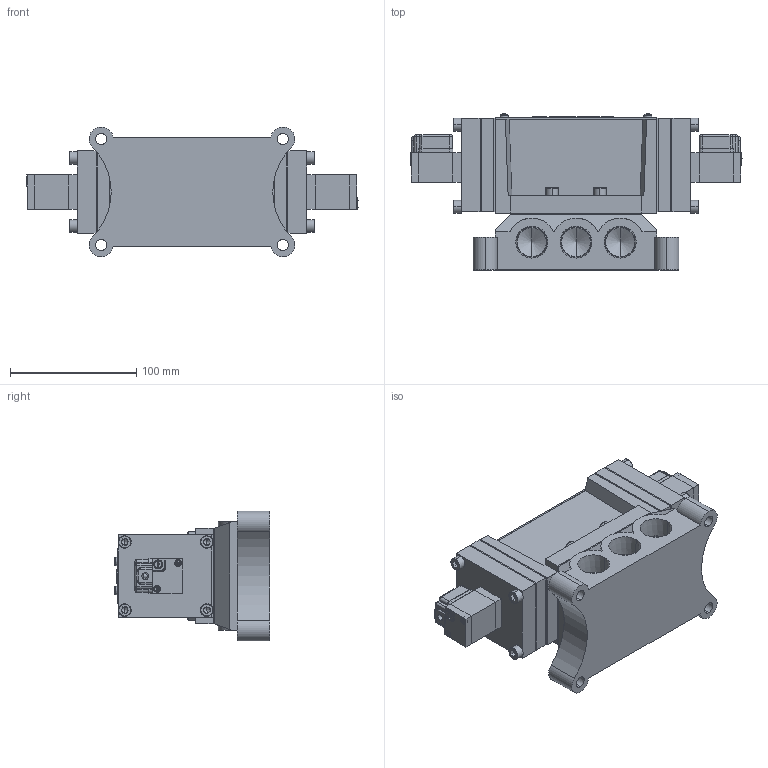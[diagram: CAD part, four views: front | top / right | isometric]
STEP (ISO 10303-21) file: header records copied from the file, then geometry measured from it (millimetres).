
FILE_DESCRIPTION (( 'STEP AP203' ), '1' );
FILE_NAME ('PMD(E)3415#-06-#G#.STEP', '2016-03-09T05:58:00', ( 'Sam Lin' ), ( '' ), 'SwSTEP 2.0', 'SolidWorks 2013', '' );
FILE_SCHEMA (( 'CONFIG_CONTROL_DESIGN' ));
Length unit declared in the file: metre
Products named in the file (17): PMS2415-6-06; PMS2415-2; PMD3415-1; PMS2415-3; PM06-C1; PMS2415-4; PM06-C4; PM15-MARK-24; PMS2415-1; PM06-C6-M3; PMS2415-5; PM06-C5; PM06-C3-M4; PM06-G1; ISO 4762 M6 x 12; PMD(E)3415#-06-#G#; PMS2415-7
Assembly tree (43 placements, depth 2):
  PMD(E)3415#-06-#G#
    PMS2415-1
    PMS2415-2
    PMS2415-3  x4
    PMS2415-4  x2
    PM15-MARK-24
    PMS2415-5
    PM06-C3-M4  x4
    ISO 4762 M6 x 12  x12
    PMS2415-7  x2
    PMS2415-6-06
    PMD3415-1  x2
    PM06-C1  x2
    PM06-C4  x2
    PM06-C6-M3  x4
    PM06-C5  x2
    PM06-G1  x2
Bounding box: 263 x 123.55 x 102.97 mm (x, y, z)
Volume: 1283225.4 mm3; surface area: 263862.8 mm2
Topology: 49 solids, 49 shells, 1127 faces, 2652 edges, 1623 vertices
Faces by surface type: plane 600, cylinder 249, cone 142, bspline 128, torus 8
Entity records: 17444 total; most frequent: CARTESIAN_POINT 3917, DIRECTION 2321, ORIENTED_EDGE 2234, EDGE_CURVE 1117, AXIS2_PLACEMENT_3D 828, VERTEX_POINT 718, VECTOR 665, LINE 665
